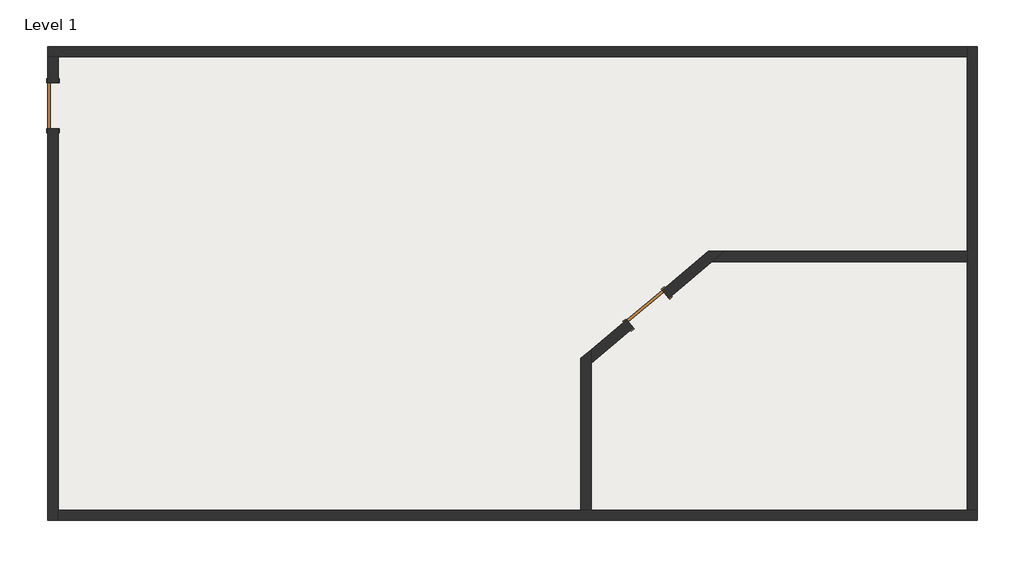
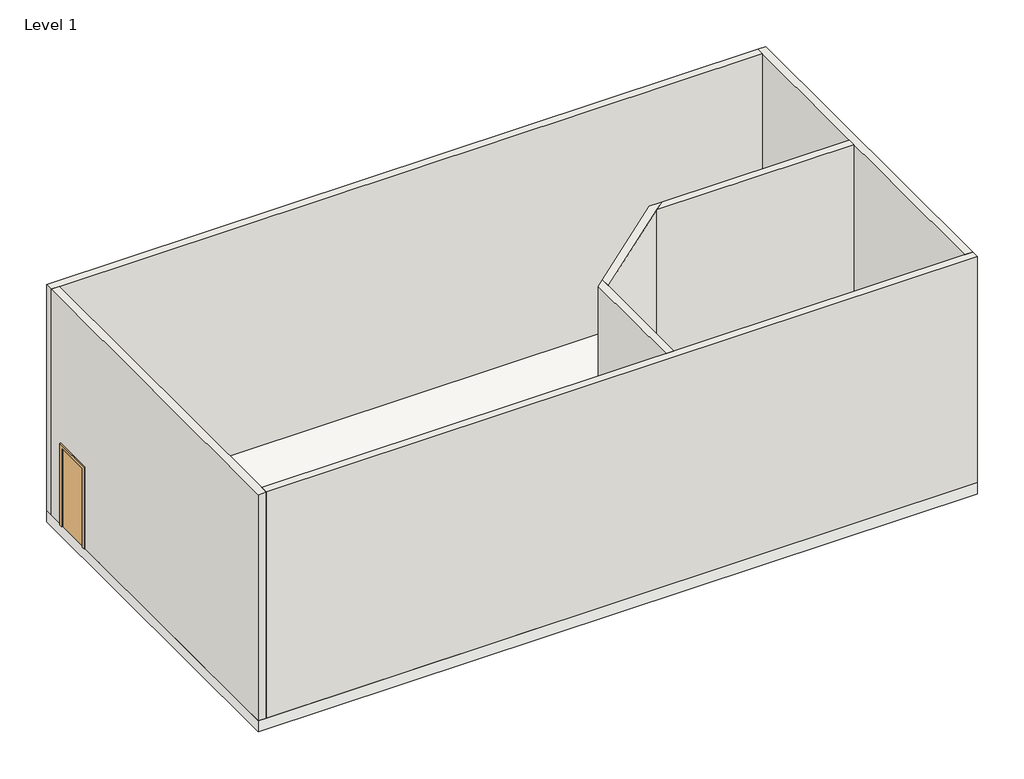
# One storey: 7 walls, 2 doors, 1 slab.
"""IFC4 building model written with IfcOpenShell, lengths in millimetres."""

from ifc_helpers import new_model, si_unit, frame, origin, origin_with_axes, place, context, project, spatial, polyline, outline, extrude, faceted_brep, transform, mapped, element, save
from components import door_54dd4da4

model = new_model("IFC4")

# Units and contexts
model_context = context("Model", 3, world=origin())
ifc_project = project(units=[si_unit("LENGTHUNIT", "METRE", prefix="MILLI")], contexts=[model_context])

# Site, building, storey
site = spatial("IfcSite", under=ifc_project)
building = spatial("IfcBuilding", under=site)
storey = spatial("IfcBuildingStorey", under=building, Name="Level 1", Elevation=0.0)

# Doors
placement = place(None, origin())
door_shape = door_54dd4da4(model_context)
element("IfcDoor", 1, ObjectType="Single-Flush : 36\" x 84\"", at=placement, inside=storey, context=model_context, shape_type="MappedRepresentation", body=[
    mapped(door_shape, transform((-19205.8111814, 6863.8662891, 0.0), x_axis=(0.0, 1.0, 0.0), y_axis=(-1.0, 0.0, 0.0), z_axis=(0.0, 0.0, 1.0))),
])
element("IfcDoor", 2, ObjectType="Single-Flush : 36\" x 84\"", at=placement, inside=storey, context=model_context, shape_type="MappedRepresentation", body=[
    mapped(door_shape, transform((-7475.3133342, 2854.0866246, 0.0), x_axis=(0.7660444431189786, 0.6427876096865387, 0.0), y_axis=(-0.6427876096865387, 0.7660444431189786, 0.0), z_axis=(0.0, 0.0, 1.0))),
])

# Slab
element("IfcSlab", 3, ObjectType="Generic - 12\"", at=placement, inside=storey, context=model_context, shape_type="SweptSolid", body=[
    extrude(outline(polyline([(-968.6111814, 8032.2662891), (-968.6111814, -1314.9337109), (-19307.4111814, -1314.9337109), (-19307.4111814, 8032.2662891), (-968.6111814, 8032.2662891)])), frame((0.0, 0.0, -304.8), z_axis=(0.0, 0.0, 1.0), x_axis=(1.0, 0.0, 0.0)), (0.0, 0.0, 1.0), 304.8),
])

# Walls
element("IfcWall", 4, ObjectType="Generic - 8\"", at=placement, inside=storey, context=model_context, shape_type="Brep", body=[
    faceted_brep([(-19307.4111814, 7829.0662891, 0.0), (-19104.2111814, 7829.0662891, 0.0), (-1171.8111814, 7829.0662891, 0.0), (-1171.8111814, 7829.0662891, 6096.0), (-19104.2111814, 7829.0662891, 6096.0), (-19307.4111814, 7829.0662891, 6096.0), (-19307.4111814, 8032.2662891, 0.0), (-19307.4111814, 8032.2662891, 6096.0), (-1171.8111814, 8032.2662891, 6096.0), (-1171.8111814, 8032.2662891, 0.0)], [[[0, 1, 2, 3, 4, 5]], [[6, 7, 8, 9]], [[2, 1, 0, 6, 9]], [[5, 4, 3, 8, 7]], [[0, 5, 7, 6]], [[3, 2, 9, 8]]]),
])
element("IfcWall", 5, ObjectType="Generic - 8\"", at=placement, inside=storey, context=model_context, shape_type="Brep", body=[
    faceted_brep([(-19104.2111814, 7321.0662891, 2133.6), (-19104.2111814, 7321.0662891, 0.0), (-19104.2111814, 7829.0662891, 0.0), (-19104.2111814, 7829.0662891, 6096.0), (-19104.2111814, -1111.7337109, 6096.0), (-19104.2111814, -1314.9337109, 6096.0), (-19104.2111814, -1314.9337109, 0.0), (-19104.2111814, -1111.7337109, 0.0), (-19104.2111814, 6406.6662891, 0.0), (-19104.2111814, 6406.6662891, 2133.6), (-19307.4111814, 7829.0662891, 0.0), (-19307.4111814, 7321.0662891, 0.0), (-19307.4111814, 7321.0662891, 2133.6), (-19307.4111814, 6406.6662891, 2133.6), (-19307.4111814, 6406.6662891, 0.0), (-19307.4111814, -1314.9337109, 0.0), (-19307.4111814, -1314.9337109, 6096.0), (-19307.4111814, 7829.0662891, 6096.0)], [[[0, 1, 2, 3, 4, 5, 6, 7, 8, 9]], [[10, 11, 12, 13, 14, 15, 16, 17]], [[2, 1, 11, 10]], [[8, 7, 6, 15, 14]], [[5, 4, 3, 17, 16]], [[6, 5, 16, 15]], [[3, 2, 10, 17]], [[12, 11, 1, 0]], [[13, 12, 0, 9]], [[14, 13, 9, 8]]]),
])
element("IfcWall", 6, ObjectType="Generic - 8\"", at=placement, inside=storey, context=model_context, shape_type="Brep", body=[
    faceted_brep([(-968.6111814, -1111.7337109, 0.0), (-1171.8111814, -1111.7337109, 0.0), (-19104.2111814, -1111.7337109, 0.0), (-19104.2111814, -1111.7337109, 6096.0), (-1171.8111814, -1111.7337109, 6096.0), (-968.6111814, -1111.7337109, 6096.0), (-968.6111814, -1314.9337109, 0.0), (-968.6111814, -1314.9337109, 6096.0), (-19104.2111814, -1314.9337109, 6096.0), (-19104.2111814, -1314.9337109, 0.0)], [[[0, 1, 2, 3, 4, 5]], [[6, 7, 8, 9]], [[2, 1, 0, 6, 9]], [[5, 4, 3, 8, 7]], [[0, 5, 7, 6]], [[3, 2, 9, 8]]]),
])
element("IfcWall", 7, ObjectType="Generic - 8\"", at=placement, inside=storey, context=model_context, shape_type="Brep", body=[
    faceted_brep([(-1171.8111814, 8032.2662891, 0.0), (-1171.8111814, 7829.0662891, 0.0), (-1171.8111814, -1111.7337109, 0.0), (-1171.8111814, -1111.7337109, 6096.0), (-1171.8111814, 7829.0662891, 6096.0), (-1171.8111814, 8032.2662891, 6096.0), (-968.6111814, 8032.2662891, 0.0), (-968.6111814, 8032.2662891, 6096.0), (-968.6111814, -1111.7337109, 6096.0), (-968.6111814, -1111.7337109, 0.0)], [[[0, 1, 2, 3, 4, 5]], [[6, 7, 8, 9]], [[2, 1, 0, 6, 9]], [[5, 4, 3, 8, 7]], [[0, 5, 7, 6]], [[3, 2, 9, 8]]]),
])
element("IfcWall", 8, ObjectType="Generic - 8\"", at=placement, inside=storey, context=model_context, shape_type="Brep", body=[
    faceted_brep([(-8588.6111814, -1111.7337109, 0.0), (-8588.6111814, 1787.289431, 0.0), (-8588.6111814, 2052.5481922, 0.0), (-8588.6111814, 2052.5481922, 6096.0), (-8588.6111814, 1787.289431, 6096.0), (-8588.6111814, -1111.7337109, 6096.0), (-8791.8111814, -1111.7337109, 0.0), (-8791.8111814, -1111.7337109, 6096.0), (-8791.8111814, 1882.0431471, 6096.0), (-8791.8111814, 1882.0431471, 0.0)], [[[0, 1, 2, 3, 4, 5]], [[6, 7, 8, 9]], [[2, 1, 0, 6, 9]], [[5, 4, 3, 8, 7]], [[0, 5, 7, 6]], [[3, 2, 9, 8]]]),
])
element("IfcWall", 9, ObjectType="Generic - 8\"", at=placement, inside=storey, context=model_context, shape_type="Brep", body=[
    faceted_brep([(-7059.7705937, 3070.1390043, 2133.6), (-7059.7705937, 3070.1390043, 0.0), (-6201.5831698, 3790.2437551, 0.0), (-5959.4188398, 3993.4437551, 0.0), (-5959.4188398, 3993.4437551, 6096.0), (-6201.5831698, 3790.2437551, 6096.0), (-8588.6111814, 1787.289431, 6096.0), (-8588.6111814, 1787.289431, 0.0), (-7760.2416325, 2482.374014, 0.0), (-7760.2416325, 2482.374014, 2133.6), (-6275.5419214, 3993.4437551, 0.0), (-7190.385036, 3225.7992351, 0.0), (-7190.385036, 3225.7992351, 2133.6), (-7890.8560748, 2638.0342448, 2133.6), (-7890.8560748, 2638.0342448, 0.0), (-8588.6111814, 2052.5481922, 0.0), (-8588.6111814, 2052.5481922, 6096.0), (-6275.5419214, 3993.4437551, 6096.0)], [[[0, 1, 2, 3, 4, 5, 6, 7, 8, 9]], [[10, 11, 12, 13, 14, 15, 16, 17]], [[8, 7, 15, 14]], [[3, 2, 1, 11, 10]], [[6, 5, 4, 17, 16]], [[7, 6, 16, 15]], [[4, 3, 10, 17]], [[12, 11, 1, 0]], [[13, 12, 0, 9]], [[14, 13, 9, 8]]]),
])
element("IfcWall", 10, ObjectType="Generic - 8\"", at=placement, inside=storey, context=model_context, shape_type="SweptSolid", body=[
    extrude(outline(polyline([(-1171.8111814, 3790.2437551), (-6201.5831698, 3790.2437551), (-5959.4188398, 3993.4437551), (-1171.8111814, 3993.4437551), (-1171.8111814, 3790.2437551)])), origin_with_axes(), (0.0, 0.0, 1.0), 6096.0),
])

save(model, "model.ifc")
